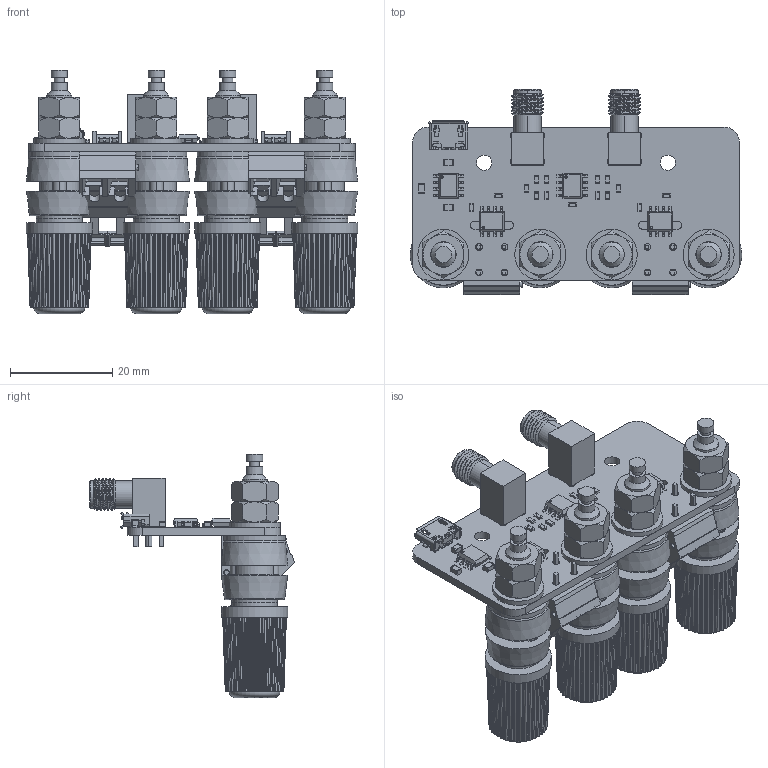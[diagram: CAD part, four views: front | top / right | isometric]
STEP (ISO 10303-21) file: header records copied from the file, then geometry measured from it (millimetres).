
FILE_DESCRIPTION(('KiCad electronic assembly'),'2;1');
FILE_NAME('hall-current-probe.step','2018-06-27T22:37:10',('An Author'), ('A Company'),'Open CASCADE STEP processor 6.9', 'KiCad to STEP converter','Unknown');
FILE_SCHEMA(('AUTOMOTIVE_DESIGN { 1 0 10303 214 1 1 1 1 }'));
Length unit declared in the file: millimetre
Products named in the file (20): Open CASCADE STEP translator 6.9 1; TE_2834076-1; SOLID; black-m5-bindingpost; COMPOUND; red-m5-bindingpost; SO-8; sma-90deg; FCI_10118193-0001LF; CC0805; CC0603; RC0603
Assembly tree (41 placements, depth 3):
  Open CASCADE STEP translator 6.9 1
    TE_2834076-1  x2
      SOLID
    black-m5-bindingpost  x2
      COMPOUND
    red-m5-bindingpost  x2
      COMPOUND
    SO-8  x4
      SOLID
    sma-90deg  x2
      SOLID
    FCI_10118193-0001LF
      SOLID
    CC0805  x3
      COMPOUND
    CC0603  x7
      COMPOUND
    RC0603  x8
      COMPOUND
    COMPOUND
Bounding box: 65 x 40.17 x 47.7 mm (x, y, z)
Volume: 21383.2 mm3; surface area: 25814.4 mm2
Topology: 60 solids, 60 shells, 3759 faces, 9747 edges, 6003 vertices
Faces by surface type: plane 1212, cylinder 1046, bspline 885, cone 344, sphere 176, torus 88, revolution 8
Full cylindrical faces by diameter (mm): 0.7 x24, 1.3 x8, 1.5 x2, 1.6 x8, 2 x4, 3 x2, 3.2 x8, 4 x4, 4.2 x8, 4.8 x4, 4.9 x4, 5 x8, 5.1 x4, 5.3 x4, 5.5 x8, 5.8 x4, 6.4 x4, 7.8 x4, 8 x4, 9 x8, 9.4 x4, 10 x4, 12 x4, 13 x4
Entity records: 207725 total; most frequent: CARTESIAN_POINT 114926, DIRECTION 12027, ORIENTED_EDGE 9350, PCURVE 9346, DEFINITIONAL_REPRESENTATION 9346, LINE 6143, VECTOR 6143, B_SPLINE_CURVE_WITH_KNOTS 5423
